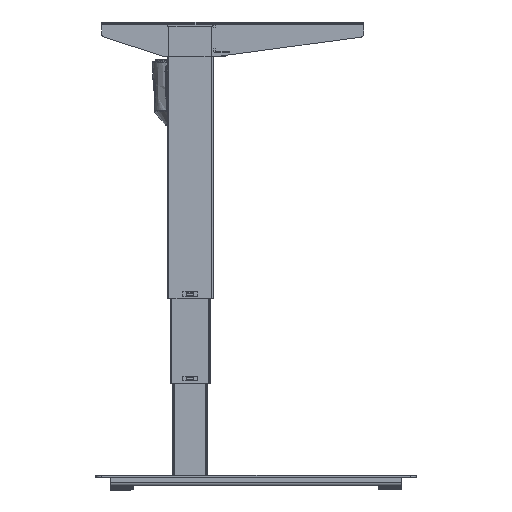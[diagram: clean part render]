
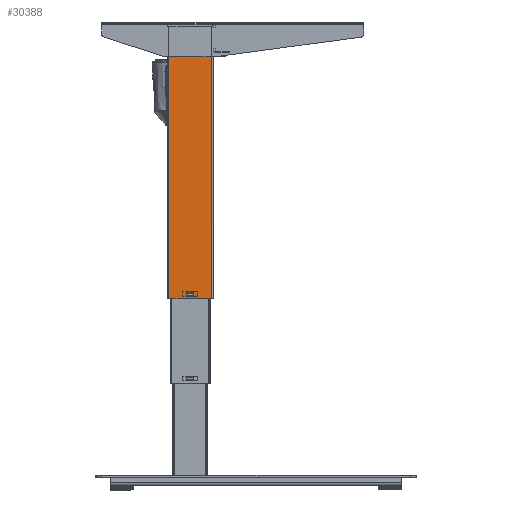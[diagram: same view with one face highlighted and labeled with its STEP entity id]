
A CAD part, left-side view. The second image highlights one B-rep face of the part: STEP entity #30388.
In plain terms, the highlighted planar face has unit normal (-1, 0, 0).
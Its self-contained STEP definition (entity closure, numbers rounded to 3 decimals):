
#831 = ORIENTED_EDGE ( 'NONE', *, *, #41524, .F. ) ;
#1245 = DIRECTION ( 'NONE',  ( 1., 0., 0. ) ) ;
#1954 = VECTOR ( 'NONE', #3992, 1000. ) ;
#3992 = DIRECTION ( 'NONE',  ( 0., 1., 0. ) ) ;
#4299 = LINE ( 'NONE', #65629, #58246 ) ;
#5553 = ORIENTED_EDGE ( 'NONE', *, *, #24229, .T. ) ;
#6993 = EDGE_CURVE ( 'NONE', #7424, #53894, #15912, .T. ) ;
#7232 = LINE ( 'NONE', #58947, #42372 ) ;
#7424 = VERTEX_POINT ( 'NONE', #33186 ) ;
#8186 = DIRECTION ( 'NONE',  ( 0., 1., 0. ) ) ;
#9298 = DIRECTION ( 'NONE',  ( 0., 0., -1. ) ) ;
#10326 = EDGE_CURVE ( 'NONE', #49933, #35137, #67900, .T. ) ;
#10623 = CARTESIAN_POINT ( 'NONE',  ( -30., -37., 475. ) ) ;
#11902 = EDGE_CURVE ( 'NONE', #46624, #7424, #4299, .T. ) ;
#12958 = CARTESIAN_POINT ( 'NONE',  ( -30., 6., 6. ) ) ;
#13035 = VECTOR ( 'NONE', #52995, 1000. ) ;
#13248 = AXIS2_PLACEMENT_3D ( 'NONE', #51278, #1245, #67548 ) ;
#13876 = ORIENTED_EDGE ( 'NONE', *, *, #68490, .T. ) ;
#14209 = LINE ( 'NONE', #12958, #63946 ) ;
#14763 = CARTESIAN_POINT ( 'NONE',  ( -30., -40., 475. ) ) ;
#14907 = EDGE_CURVE ( 'NONE', #53894, #22029, #7232, .T. ) ;
#15538 = CARTESIAN_POINT ( 'NONE',  ( -30., -37., 0. ) ) ;
#15657 = ORIENTED_EDGE ( 'NONE', *, *, #6993, .T. ) ;
#15912 = LINE ( 'NONE', #16947, #37348 ) ;
#16485 = DIRECTION ( 'NONE',  ( 0., -1., 0. ) ) ;
#16607 = CARTESIAN_POINT ( 'NONE',  ( -30., 6., 6. ) ) ;
#16947 = CARTESIAN_POINT ( 'NONE',  ( -30., 6., 10. ) ) ;
#22029 = VERTEX_POINT ( 'NONE', #69869 ) ;
#22142 = ORIENTED_EDGE ( 'NONE', *, *, #63308, .T. ) ;
#24229 = EDGE_CURVE ( 'NONE', #41173, #49933, #43924, .T. ) ;
#25632 = CARTESIAN_POINT ( 'NONE',  ( -30., 37., 480. ) ) ;
#26024 = CARTESIAN_POINT ( 'NONE',  ( -30., -37., 480. ) ) ;
#26387 = EDGE_LOOP ( 'NONE', ( #52847, #15657, #69706, #22142 ) ) ;
#29165 = PLANE ( 'NONE',  #13248 ) ;
#30388 = ADVANCED_FACE ( 'NONE', ( #40859, #49379 ), #29165, .F. ) ;
#31533 = DIRECTION ( 'NONE',  ( 0., 0., -1. ) ) ;
#32307 = DIRECTION ( 'NONE',  ( 0., 0., 1. ) ) ;
#33186 = CARTESIAN_POINT ( 'NONE',  ( -30., 6., 10. ) ) ;
#35137 = VERTEX_POINT ( 'NONE', #15538 ) ;
#37348 = VECTOR ( 'NONE', #16485, 1000. ) ;
#40859 = FACE_BOUND ( 'NONE', #26387, .T. ) ;
#41173 = VERTEX_POINT ( 'NONE', #69435 ) ;
#41524 = EDGE_CURVE ( 'NONE', #43487, #35137, #58635, .T. ) ;
#42372 = VECTOR ( 'NONE', #31533, 1000. ) ;
#42433 = EDGE_LOOP ( 'NONE', ( #831, #13876, #5553, #67430 ) ) ;
#43487 = VERTEX_POINT ( 'NONE', #10623 ) ;
#43924 = LINE ( 'NONE', #25632, #13035 ) ;
#44787 = VECTOR ( 'NONE', #44859, 1000. ) ;
#44859 = DIRECTION ( 'NONE',  ( 0., -1., 0. ) ) ;
#46624 = VERTEX_POINT ( 'NONE', #16607 ) ;
#48278 = VECTOR ( 'NONE', #9298, 1000. ) ;
#49379 = FACE_OUTER_BOUND ( 'NONE', #42433, .T. ) ;
#49933 = VERTEX_POINT ( 'NONE', #63984 ) ;
#51278 = CARTESIAN_POINT ( 'NONE',  ( -30., 37., 480. ) ) ;
#52847 = ORIENTED_EDGE ( 'NONE', *, *, #11902, .T. ) ;
#52995 = DIRECTION ( 'NONE',  ( 0., 0., -1. ) ) ;
#53894 = VERTEX_POINT ( 'NONE', #67279 ) ;
#54252 = LINE ( 'NONE', #14763, #1954 ) ;
#55907 = CARTESIAN_POINT ( 'NONE',  ( -30., 37., 0. ) ) ;
#58246 = VECTOR ( 'NONE', #32307, 1000. ) ;
#58635 = LINE ( 'NONE', #26024, #48278 ) ;
#58947 = CARTESIAN_POINT ( 'NONE',  ( -30., -6., 10. ) ) ;
#63308 = EDGE_CURVE ( 'NONE', #22029, #46624, #14209, .T. ) ;
#63946 = VECTOR ( 'NONE', #8186, 1000. ) ;
#63984 = CARTESIAN_POINT ( 'NONE',  ( -30., 37., 0. ) ) ;
#65629 = CARTESIAN_POINT ( 'NONE',  ( -30., 6., 10. ) ) ;
#67279 = CARTESIAN_POINT ( 'NONE',  ( -30., -6., 10. ) ) ;
#67430 = ORIENTED_EDGE ( 'NONE', *, *, #10326, .T. ) ;
#67548 = DIRECTION ( 'NONE',  ( 0., 1., 0. ) ) ;
#67900 = LINE ( 'NONE', #55907, #44787 ) ;
#68490 = EDGE_CURVE ( 'NONE', #43487, #41173, #54252, .T. ) ;
#69435 = CARTESIAN_POINT ( 'NONE',  ( -30., 37., 475. ) ) ;
#69706 = ORIENTED_EDGE ( 'NONE', *, *, #14907, .T. ) ;
#69869 = CARTESIAN_POINT ( 'NONE',  ( -30., -6., 6. ) ) ;
